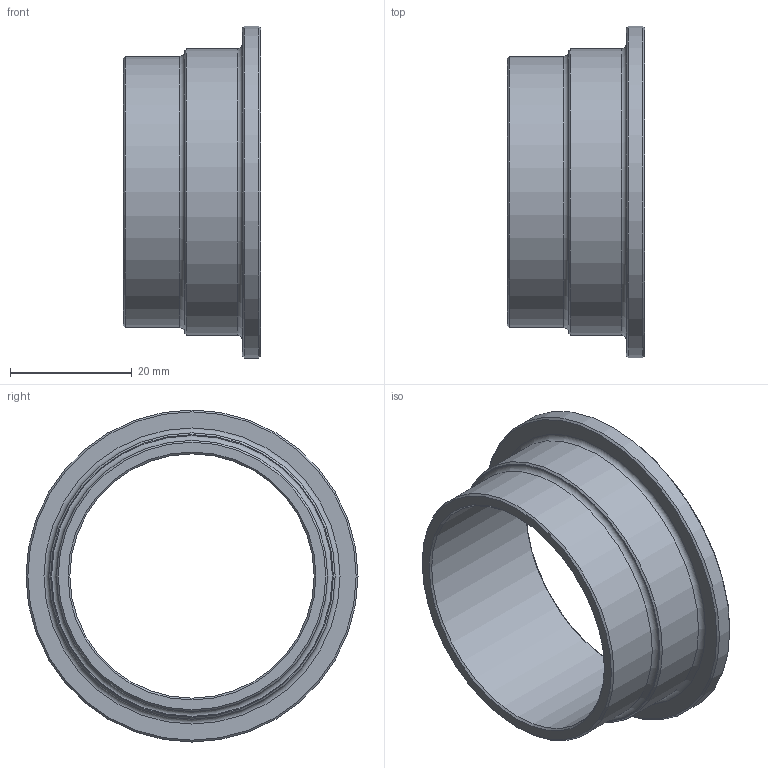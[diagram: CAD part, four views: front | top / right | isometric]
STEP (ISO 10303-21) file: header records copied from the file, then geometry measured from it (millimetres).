
FILE_DESCRIPTION(/* description */ (''),/* implementation_level */ '2;1');
FILE_NAME(/* name */ 'C:\Users\cad\Desktop\Zeichnungen neu von Ralph\3D_Kupplung_R666-SE\3D_R666-SE-44.5-DN50_17113360.stp',/* time_stamp */ '2021-06-18T08:45:24+02:00',/* author */ ('cad'),/* organization */ (''),/* preprocessor_version */ 'ST-DEVELOPER v18.1',/* originating_system */ 'Autodesk Inventor 2022',/* authorisation */ '');
FILE_SCHEMA (('AUTOMOTIVE_DESIGN { 1 0 10303 214 3 1 1 }'));
Length unit declared in the file: millimetre
Products named in the file (1): 3D_R666-SE-44.5-DN50_17113360
Bounding box: 22.5 x 54.5 x 54.5 mm (x, y, z)
Volume: 10617.6 mm3; surface area: 8035.3 mm2
Topology: 1 solids, 1 shells, 16 faces, 36 edges, 24 vertices
Faces by surface type: cone 6, plane 4, cylinder 4, torus 2
Full cylindrical faces by diameter (mm): 40.1 x1, 44.5 x1, 47 x1, 54.5 x1
Entity records: 511 total; most frequent: DIRECTION 96, CARTESIAN_POINT 77, ORIENTED_EDGE 72, AXIS2_PLACEMENT_3D 43, EDGE_CURVE 36, CIRCLE 26, VERTEX_POINT 24, EDGE_LOOP 20
